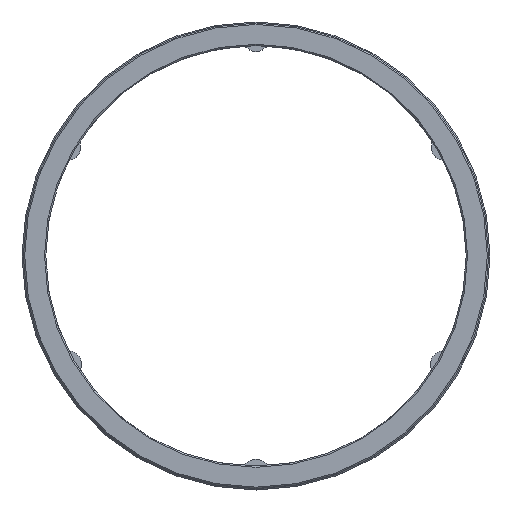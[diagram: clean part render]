
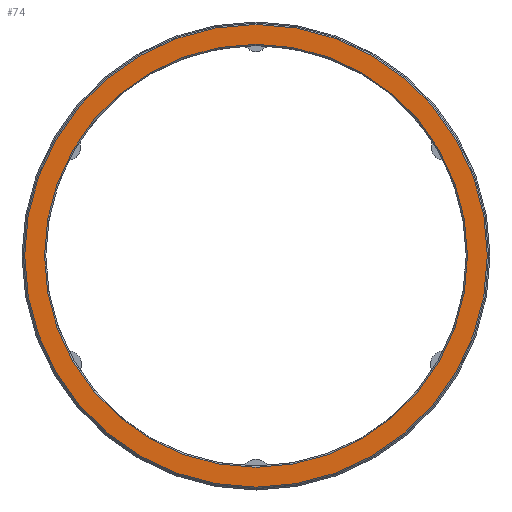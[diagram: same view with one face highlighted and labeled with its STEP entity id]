
A CAD part, top view. The second image highlights one B-rep face of the part: STEP entity #74.
In plain terms, the highlighted planar face has unit normal (0, 0, 1).
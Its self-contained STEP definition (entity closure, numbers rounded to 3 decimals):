
#74 = ADVANCED_FACE( '', ( #191, #192 ), #193, .F. );
#191 = FACE_BOUND( '', #380, .T. );
#192 = FACE_OUTER_BOUND( '', #381, .T. );
#193 = PLANE( '', #382 );
#380 = EDGE_LOOP( '', ( #563 ) );
#381 = EDGE_LOOP( '', ( #564 ) );
#382 = AXIS2_PLACEMENT_3D( '', #565, #566, #567 );
#563 = ORIENTED_EDGE( '', *, *, #963, .T. );
#564 = ORIENTED_EDGE( '', *, *, #964, .T. );
#565 = CARTESIAN_POINT( '', ( 0., 0., 46. ) );
#566 = DIRECTION( '', ( 0., 0., -1. ) );
#567 = DIRECTION( '', ( -1., 0., 0. ) );
#963 = EDGE_CURVE( '', #1116, #1116, #1117, .T. );
#964 = EDGE_CURVE( '', #1118, #1118, #1119, .F. );
#1116 = VERTEX_POINT( '', #1336 );
#1117 = CIRCLE( '', #1337, 80. );
#1118 = VERTEX_POINT( '', #1338 );
#1119 = CIRCLE( '', #1339, 87.5 );
#1336 = CARTESIAN_POINT( '', ( -80., 0., 46. ) );
#1337 = AXIS2_PLACEMENT_3D( '', #1579, #1580, #1581 );
#1338 = CARTESIAN_POINT( '', ( -87.5, 0., 46. ) );
#1339 = AXIS2_PLACEMENT_3D( '', #1582, #1583, #1584 );
#1579 = CARTESIAN_POINT( '', ( 0., 0., 46. ) );
#1580 = DIRECTION( '', ( 0., 0., -1. ) );
#1581 = DIRECTION( '', ( -1., 0., 0. ) );
#1582 = CARTESIAN_POINT( '', ( 0., 0., 46. ) );
#1583 = DIRECTION( '', ( 0., 0., -1. ) );
#1584 = DIRECTION( '', ( -1., 0., 0. ) );
